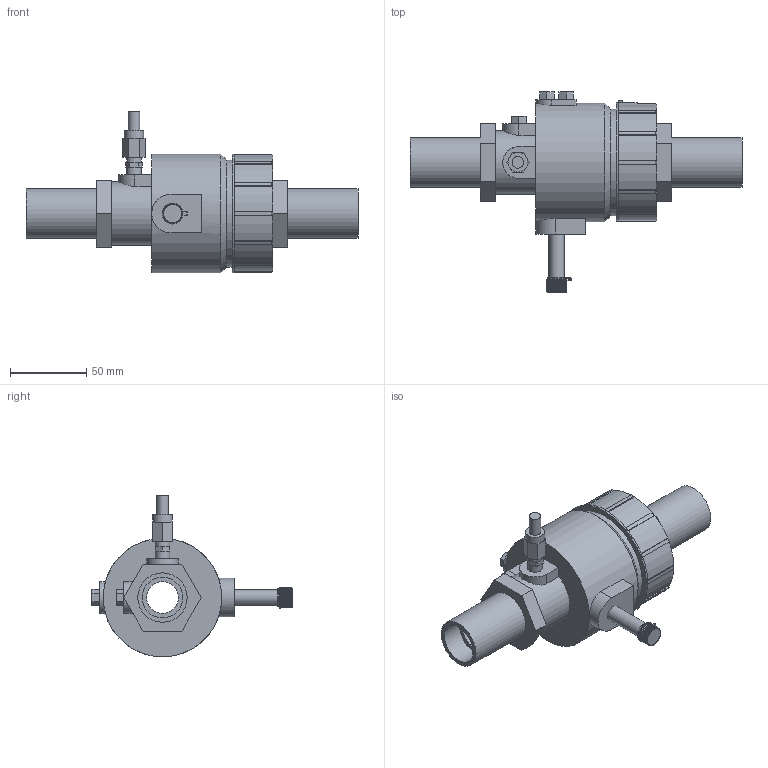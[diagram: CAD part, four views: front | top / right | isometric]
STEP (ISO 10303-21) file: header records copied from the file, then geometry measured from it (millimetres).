
FILE_DESCRIPTION(/* description */ ('VIC CONTROLLER DIFFERENTIAL PRESSURE TA SERIES 7DA (FPT)','CAx-IF Rec.Pracs.---Representation and Presentation of Product Manufacturing Information (PMI)---4.0---2014-10-13'),/* implementation_level */ '2;1');
FILE_NAME(/* name */ 'C:\Users\Vjadhav\Desktop\CAD for Inventor\1\7DA\STEP\Victaulic_IPS_Controller Differential Pressure_TA Series 7DA (FPT)\Victaulic_IPS_Controller Differential Pressure_TA Series 7DA (FPT)_0.75 (20).stp',/* time_stamp */ '2021-08-30T15:53:14+05:00',/* author */ ('Vjadhav'),/* organization */ ('Victaulic'),/* preprocessor_version */ 'ST-DEVELOPER v17.2',/* originating_system */ 'Autodesk Inventor 2019',/* authorisation */ '');
FILE_SCHEMA (('AP242_MANAGED_MODEL_BASED_3D_ENGINEERING_MIM_LF { 1 0 10303 442 1 1 4 }'));
Length unit declared in the file: inch
Products named in the file (1): 7DA-0.75
Bounding box: 217.93 x 131.44 x 106.28 mm (x, y, z)
Volume: 429588.8 mm3; surface area: 75481.1 mm2
Topology: 1 solids, 1 shells, 371 faces, 1039 edges, 692 vertices
Faces by surface type: plane 201, cylinder 122, torus 35, cone 13
Full cylindrical faces by diameter (mm): 2.54 x1, 7.62 x1, 9.525 x2, 10.16 x2, 12.7 x1, 20.93 x1, 26.67 x2, 32.41 x2, 41.498 x2, 51.486 x1, 54.026 x1, 70.192 x1, 72.898 x1, 77.812 x1
Entity records: 13088 total; most frequent: CARTESIAN_POINT 2868, ORIENTED_EDGE 2078, DIRECTION 2042, EDGE_CURVE 1039, AXIS2_PLACEMENT_3D 718, VERTEX_POINT 692, LINE 606, VECTOR 606
